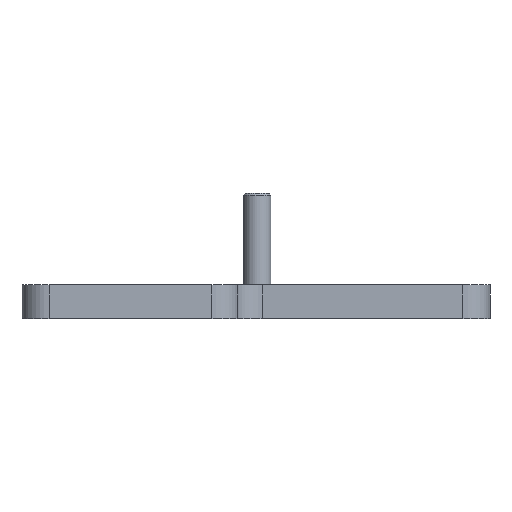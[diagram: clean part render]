
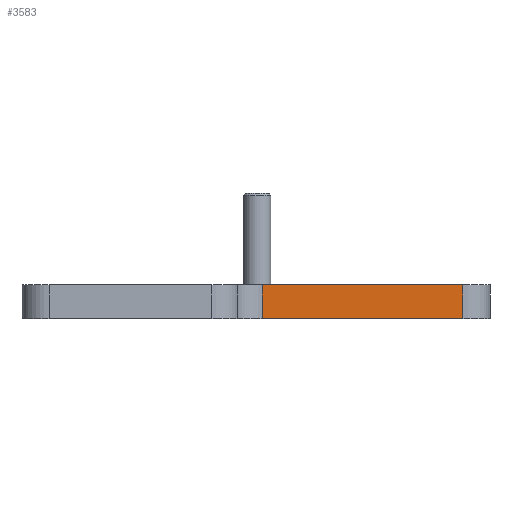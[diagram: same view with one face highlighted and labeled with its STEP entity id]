
A CAD part, left-side view. The second image highlights one B-rep face of the part: STEP entity #3583.
In plain terms, the highlighted planar face has unit normal (-1, 0, 0).
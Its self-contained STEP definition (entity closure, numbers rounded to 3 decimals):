
#65 = LINE ( 'NONE', #4619, #2824 ) ;
#261 = EDGE_CURVE ( 'NONE', #4180, #5715, #65, .T. ) ;
#677 = CARTESIAN_POINT ( 'NONE',  ( -19.8, 67.32, 0. ) ) ;
#886 = EDGE_CURVE ( 'NONE', #3814, #5715, #5329, .T. ) ;
#1193 = CARTESIAN_POINT ( 'NONE',  ( -19.8, 67.32, 10. ) ) ;
#1194 = DIRECTION ( 'NONE',  ( 0., 0., -1. ) ) ;
#1348 = VECTOR ( 'NONE', #2878, 1000. ) ;
#1549 = VECTOR ( 'NONE', #4124, 1000. ) ;
#1744 = DIRECTION ( 'NONE',  ( 0., 0., -1. ) ) ;
#1820 = ORIENTED_EDGE ( 'NONE', *, *, #6336, .T. ) ;
#1995 = ORIENTED_EDGE ( 'NONE', *, *, #5120, .F. ) ;
#2060 = ORIENTED_EDGE ( 'NONE', *, *, #261, .F. ) ;
#2077 = ORIENTED_EDGE ( 'NONE', *, *, #886, .T. ) ;
#2368 = CARTESIAN_POINT ( 'NONE',  ( -19.8, 67.32, 10. ) ) ;
#2456 = EDGE_LOOP ( 'NONE', ( #2077, #2060, #1995, #1820 ) ) ;
#2667 = AXIS2_PLACEMENT_3D ( 'NONE', #6192, #3228, #1194 ) ;
#2776 = FACE_OUTER_BOUND ( 'NONE', #2456, .T. ) ;
#2824 = VECTOR ( 'NONE', #1744, 1000. ) ;
#2831 = LINE ( 'NONE', #4800, #1348 ) ;
#2878 = DIRECTION ( 'NONE',  ( 0., 0., -1. ) ) ;
#3228 = DIRECTION ( 'NONE',  ( 1., 0., 0. ) ) ;
#3264 = LINE ( 'NONE', #1193, #6212 ) ;
#3583 = ADVANCED_FACE ( 'NONE', ( #2776 ), #5698, .F. ) ;
#3803 = CARTESIAN_POINT ( 'NONE',  ( -19.8, 8., 10. ) ) ;
#3814 = VERTEX_POINT ( 'NONE', #5351 ) ;
#4124 = DIRECTION ( 'NONE',  ( 0., -1., 0. ) ) ;
#4180 = VERTEX_POINT ( 'NONE', #3803 ) ;
#4292 = VERTEX_POINT ( 'NONE', #2368 ) ;
#4603 = DIRECTION ( 'NONE',  ( 0., -1., 0. ) ) ;
#4619 = CARTESIAN_POINT ( 'NONE',  ( -19.8, 8., 10. ) ) ;
#4800 = CARTESIAN_POINT ( 'NONE',  ( -19.8, 67.32, 10. ) ) ;
#5120 = EDGE_CURVE ( 'NONE', #4292, #4180, #3264, .T. ) ;
#5329 = LINE ( 'NONE', #677, #1549 ) ;
#5351 = CARTESIAN_POINT ( 'NONE',  ( -19.8, 67.32, 0. ) ) ;
#5698 = PLANE ( 'NONE',  #2667 ) ;
#5715 = VERTEX_POINT ( 'NONE', #6094 ) ;
#6094 = CARTESIAN_POINT ( 'NONE',  ( -19.8, 8., 0. ) ) ;
#6192 = CARTESIAN_POINT ( 'NONE',  ( -19.8, 67.32, 10. ) ) ;
#6212 = VECTOR ( 'NONE', #4603, 1000. ) ;
#6336 = EDGE_CURVE ( 'NONE', #4292, #3814, #2831, .T. ) ;
